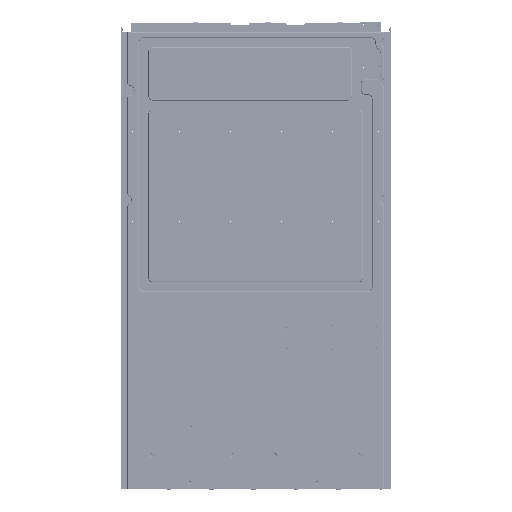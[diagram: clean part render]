
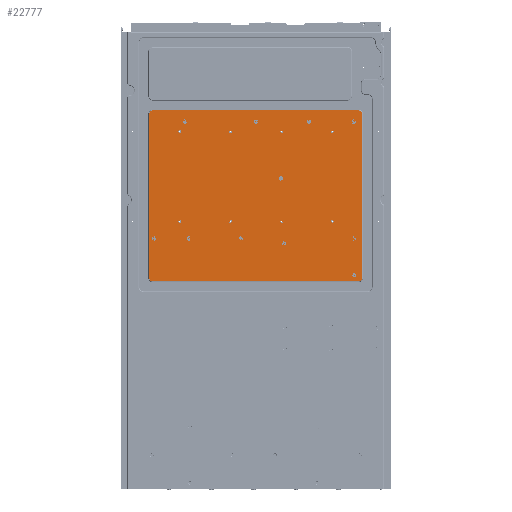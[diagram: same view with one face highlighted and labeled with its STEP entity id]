
A CAD part, front view. The second image highlights one B-rep face of the part: STEP entity #22777.
In plain terms, the highlighted planar face has unit normal (0, -1, 0).
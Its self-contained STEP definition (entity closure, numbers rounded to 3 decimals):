
#78=DIRECTION('',(0.,0.,-1.));
#79=VECTOR('',#78,266.);
#80=CARTESIAN_POINT('',(-173.5,0.,-150.7));
#81=LINE('',#80,#79);
#85=CARTESIAN_POINT('',(-167.7,0.,-150.7));
#86=DIRECTION('',(0.,1.,0.));
#87=DIRECTION('',(-1.,0.,0.));
#88=AXIS2_PLACEMENT_3D('',#85,#86,#87);
#93=DIRECTION('',(-1.,0.,0.));
#94=VECTOR('',#93,334.39);
#95=CARTESIAN_POINT('',(166.69,0.,-144.9));
#96=LINE('',#95,#94);
#100=CARTESIAN_POINT('',(166.69,0.,-150.7));
#101=DIRECTION('',(0.,1.,0.));
#102=DIRECTION('',(0.,0.,1.));
#103=AXIS2_PLACEMENT_3D('',#100,#101,#102);
#108=DIRECTION('',(0.,0.,1.));
#109=VECTOR('',#108,266.);
#110=CARTESIAN_POINT('',(172.49,0.,-416.7));
#111=LINE('',#110,#109);
#115=CARTESIAN_POINT('',(166.69,0.,-416.7));
#116=DIRECTION('',(0.,1.,0.));
#117=DIRECTION('',(1.,0.,0.));
#118=AXIS2_PLACEMENT_3D('',#115,#116,#117);
#123=DIRECTION('',(1.,0.,0.));
#124=VECTOR('',#123,334.39);
#125=CARTESIAN_POINT('',(-167.7,0.,-422.5));
#126=LINE('',#125,#124);
#130=CARTESIAN_POINT('',(-167.7,0.,-416.7));
#131=DIRECTION('',(0.,1.,0.));
#132=DIRECTION('',(0.,0.,-1.));
#133=AXIS2_PLACEMENT_3D('',#130,#131,#132);
#138=CARTESIAN_POINT('',(123.6,0.,-179.5));
#139=DIRECTION('',(0.,1.,0.));
#140=DIRECTION('',(-1.,0.,0.));
#141=AXIS2_PLACEMENT_3D('',#138,#139,#140);
#146=CARTESIAN_POINT('',(123.6,0.,-179.5));
#147=DIRECTION('',(0.,1.,0.));
#148=DIRECTION('',(1.,0.,0.));
#149=AXIS2_PLACEMENT_3D('',#146,#147,#148);
#154=CARTESIAN_POINT('',(41.2,0.,-179.5));
#155=DIRECTION('',(0.,1.,0.));
#156=DIRECTION('',(-1.,0.,0.));
#157=AXIS2_PLACEMENT_3D('',#154,#155,#156);
#162=CARTESIAN_POINT('',(41.2,0.,-179.5));
#163=DIRECTION('',(0.,1.,0.));
#164=DIRECTION('',(1.,0.,0.));
#165=AXIS2_PLACEMENT_3D('',#162,#163,#164);
#170=CARTESIAN_POINT('',(-41.2,0.,-179.5));
#171=DIRECTION('',(0.,1.,0.));
#172=DIRECTION('',(-1.,0.,0.));
#173=AXIS2_PLACEMENT_3D('',#170,#171,#172);
#178=CARTESIAN_POINT('',(-41.2,0.,-179.5));
#179=DIRECTION('',(0.,1.,0.));
#180=DIRECTION('',(1.,0.,0.));
#181=AXIS2_PLACEMENT_3D('',#178,#179,#180);
#186=CARTESIAN_POINT('',(-123.6,0.,-179.5));
#187=DIRECTION('',(0.,1.,0.));
#188=DIRECTION('',(-1.,0.,0.));
#189=AXIS2_PLACEMENT_3D('',#186,#187,#188);
#194=CARTESIAN_POINT('',(-123.6,0.,-179.5));
#195=DIRECTION('',(0.,1.,0.));
#196=DIRECTION('',(1.,0.,0.));
#197=AXIS2_PLACEMENT_3D('',#194,#195,#196);
#202=CARTESIAN_POINT('',(-123.6,0.,-325.5));
#203=DIRECTION('',(0.,1.,0.));
#204=DIRECTION('',(-1.,0.,0.));
#205=AXIS2_PLACEMENT_3D('',#202,#203,#204);
#210=CARTESIAN_POINT('',(-123.6,0.,-325.5));
#211=DIRECTION('',(0.,1.,0.));
#212=DIRECTION('',(1.,0.,0.));
#213=AXIS2_PLACEMENT_3D('',#210,#211,#212);
#218=CARTESIAN_POINT('',(-41.2,0.,-325.5));
#219=DIRECTION('',(0.,1.,0.));
#220=DIRECTION('',(-1.,0.,0.));
#221=AXIS2_PLACEMENT_3D('',#218,#219,#220);
#226=CARTESIAN_POINT('',(-41.2,0.,-325.5));
#227=DIRECTION('',(0.,1.,0.));
#228=DIRECTION('',(1.,0.,0.));
#229=AXIS2_PLACEMENT_3D('',#226,#227,#228);
#234=CARTESIAN_POINT('',(41.2,0.,-325.5));
#235=DIRECTION('',(0.,1.,0.));
#236=DIRECTION('',(-1.,0.,0.));
#237=AXIS2_PLACEMENT_3D('',#234,#235,#236);
#242=CARTESIAN_POINT('',(41.2,0.,-325.5));
#243=DIRECTION('',(0.,1.,0.));
#244=DIRECTION('',(1.,0.,0.));
#245=AXIS2_PLACEMENT_3D('',#242,#243,#244);
#250=CARTESIAN_POINT('',(123.6,0.,-325.5));
#251=DIRECTION('',(0.,1.,0.));
#252=DIRECTION('',(-1.,0.,0.));
#253=AXIS2_PLACEMENT_3D('',#250,#251,#252);
#258=CARTESIAN_POINT('',(123.6,0.,-325.5));
#259=DIRECTION('',(0.,1.,0.));
#260=DIRECTION('',(1.,0.,0.));
#261=AXIS2_PLACEMENT_3D('',#258,#259,#260);
#19987=CARTESIAN_POINT('',(-173.5,0.,-150.7));
#19988=CARTESIAN_POINT('',(-173.5,0.,-416.7));
#19989=VERTEX_POINT('',#19987);
#19990=VERTEX_POINT('',#19988);
#19991=CARTESIAN_POINT('',(-167.7,0.,-144.9));
#19992=VERTEX_POINT('',#19991);
#19993=CARTESIAN_POINT('',(166.69,0.,-144.9));
#19994=VERTEX_POINT('',#19993);
#19995=CARTESIAN_POINT('',(172.49,0.,-150.7));
#19996=VERTEX_POINT('',#19995);
#19997=CARTESIAN_POINT('',(172.49,0.,-416.7));
#19998=VERTEX_POINT('',#19997);
#19999=CARTESIAN_POINT('',(166.69,0.,-422.5));
#20000=VERTEX_POINT('',#19999);
#20001=CARTESIAN_POINT('',(-167.7,0.,-422.5));
#20002=VERTEX_POINT('',#20001);
#21737=CARTESIAN_POINT('',(122.1,0.,-179.5));
#21738=CARTESIAN_POINT('',(125.1,0.,-179.5));
#21739=VERTEX_POINT('',#21737);
#21740=VERTEX_POINT('',#21738);
#21741=CARTESIAN_POINT('',(39.7,0.,-179.5));
#21742=CARTESIAN_POINT('',(42.7,0.,-179.5));
#21743=VERTEX_POINT('',#21741);
#21744=VERTEX_POINT('',#21742);
#21745=CARTESIAN_POINT('',(-42.7,0.,-179.5));
#21746=CARTESIAN_POINT('',(-39.7,0.,-179.5));
#21747=VERTEX_POINT('',#21745);
#21748=VERTEX_POINT('',#21746);
#21749=CARTESIAN_POINT('',(-125.1,0.,-179.5));
#21750=CARTESIAN_POINT('',(-122.1,0.,-179.5));
#21751=VERTEX_POINT('',#21749);
#21752=VERTEX_POINT('',#21750);
#21761=CARTESIAN_POINT('',(-125.1,0.,-325.5));
#21762=CARTESIAN_POINT('',(-122.1,0.,-325.5));
#21763=VERTEX_POINT('',#21761);
#21764=VERTEX_POINT('',#21762);
#21765=CARTESIAN_POINT('',(-42.7,0.,-325.5));
#21766=CARTESIAN_POINT('',(-39.7,0.,-325.5));
#21767=VERTEX_POINT('',#21765);
#21768=VERTEX_POINT('',#21766);
#21769=CARTESIAN_POINT('',(39.7,0.,-325.5));
#21770=CARTESIAN_POINT('',(42.7,0.,-325.5));
#21771=VERTEX_POINT('',#21769);
#21772=VERTEX_POINT('',#21770);
#21773=CARTESIAN_POINT('',(122.1,0.,-325.5));
#21774=CARTESIAN_POINT('',(125.1,0.,-325.5));
#21775=VERTEX_POINT('',#21773);
#21776=VERTEX_POINT('',#21774);
#22706=CARTESIAN_POINT('',(0.,0.,0.));
#22707=DIRECTION('',(0.,1.,0.));
#22708=DIRECTION('',(1.,0.,0.));
#22709=AXIS2_PLACEMENT_3D('',#22706,#22707,#22708);
#22710=PLANE('',#22709);
#22712=ORIENTED_EDGE('',*,*,#22711,.F.);
#22714=ORIENTED_EDGE('',*,*,#22713,.T.);
#22716=ORIENTED_EDGE('',*,*,#22715,.F.);
#22718=ORIENTED_EDGE('',*,*,#22717,.T.);
#22720=ORIENTED_EDGE('',*,*,#22719,.F.);
#22722=ORIENTED_EDGE('',*,*,#22721,.T.);
#22724=ORIENTED_EDGE('',*,*,#22723,.F.);
#22726=ORIENTED_EDGE('',*,*,#22725,.T.);
#22727=EDGE_LOOP('',(#22712,#22714,#22716,#22718,#22720,#22722,#22724,#22726));
#22728=FACE_OUTER_BOUND('',#22727,.F.);
#22730=ORIENTED_EDGE('',*,*,#22729,.F.);
#22732=ORIENTED_EDGE('',*,*,#22731,.F.);
#22733=EDGE_LOOP('',(#22730,#22732));
#22734=FACE_BOUND('',#22733,.F.);
#22736=ORIENTED_EDGE('',*,*,#22735,.F.);
#22738=ORIENTED_EDGE('',*,*,#22737,.F.);
#22739=EDGE_LOOP('',(#22736,#22738));
#22740=FACE_BOUND('',#22739,.F.);
#22742=ORIENTED_EDGE('',*,*,#22741,.F.);
#22744=ORIENTED_EDGE('',*,*,#22743,.F.);
#22745=EDGE_LOOP('',(#22742,#22744));
#22746=FACE_BOUND('',#22745,.F.);
#22748=ORIENTED_EDGE('',*,*,#22747,.F.);
#22750=ORIENTED_EDGE('',*,*,#22749,.F.);
#22751=EDGE_LOOP('',(#22748,#22750));
#22752=FACE_BOUND('',#22751,.F.);
#22754=ORIENTED_EDGE('',*,*,#22753,.F.);
#22756=ORIENTED_EDGE('',*,*,#22755,.F.);
#22757=EDGE_LOOP('',(#22754,#22756));
#22758=FACE_BOUND('',#22757,.F.);
#22760=ORIENTED_EDGE('',*,*,#22759,.F.);
#22762=ORIENTED_EDGE('',*,*,#22761,.F.);
#22763=EDGE_LOOP('',(#22760,#22762));
#22764=FACE_BOUND('',#22763,.F.);
#22766=ORIENTED_EDGE('',*,*,#22765,.F.);
#22768=ORIENTED_EDGE('',*,*,#22767,.F.);
#22769=EDGE_LOOP('',(#22766,#22768));
#22770=FACE_BOUND('',#22769,.F.);
#22772=ORIENTED_EDGE('',*,*,#22771,.F.);
#22774=ORIENTED_EDGE('',*,*,#22773,.F.);
#22775=EDGE_LOOP('',(#22772,#22774));
#22776=FACE_BOUND('',#22775,.F.);
#89=CIRCLE('',#88,5.8);
#104=CIRCLE('',#103,5.8);
#119=CIRCLE('',#118,5.8);
#134=CIRCLE('',#133,5.8);
#142=CIRCLE('',#141,1.5);
#150=CIRCLE('',#149,1.5);
#158=CIRCLE('',#157,1.5);
#166=CIRCLE('',#165,1.5);
#174=CIRCLE('',#173,1.5);
#182=CIRCLE('',#181,1.5);
#190=CIRCLE('',#189,1.5);
#198=CIRCLE('',#197,1.5);
#206=CIRCLE('',#205,1.5);
#214=CIRCLE('',#213,1.5);
#222=CIRCLE('',#221,1.5);
#230=CIRCLE('',#229,1.5);
#238=CIRCLE('',#237,1.5);
#246=CIRCLE('',#245,1.5);
#254=CIRCLE('',#253,1.5);
#262=CIRCLE('',#261,1.5);
#22711=EDGE_CURVE('',#19989,#19990,#81,.T.);
#22713=EDGE_CURVE('',#19989,#19992,#89,.T.);
#22715=EDGE_CURVE('',#19994,#19992,#96,.T.);
#22717=EDGE_CURVE('',#19994,#19996,#104,.T.);
#22719=EDGE_CURVE('',#19998,#19996,#111,.T.);
#22721=EDGE_CURVE('',#19998,#20000,#119,.T.);
#22723=EDGE_CURVE('',#20002,#20000,#126,.T.);
#22725=EDGE_CURVE('',#20002,#19990,#134,.T.);
#22729=EDGE_CURVE('',#21739,#21740,#142,.T.);
#22731=EDGE_CURVE('',#21740,#21739,#150,.T.);
#22735=EDGE_CURVE('',#21743,#21744,#158,.T.);
#22737=EDGE_CURVE('',#21744,#21743,#166,.T.);
#22741=EDGE_CURVE('',#21747,#21748,#174,.T.);
#22743=EDGE_CURVE('',#21748,#21747,#182,.T.);
#22747=EDGE_CURVE('',#21751,#21752,#190,.T.);
#22749=EDGE_CURVE('',#21752,#21751,#198,.T.);
#22753=EDGE_CURVE('',#21763,#21764,#206,.T.);
#22755=EDGE_CURVE('',#21764,#21763,#214,.T.);
#22759=EDGE_CURVE('',#21767,#21768,#222,.T.);
#22761=EDGE_CURVE('',#21768,#21767,#230,.T.);
#22765=EDGE_CURVE('',#21771,#21772,#238,.T.);
#22767=EDGE_CURVE('',#21772,#21771,#246,.T.);
#22771=EDGE_CURVE('',#21775,#21776,#254,.T.);
#22773=EDGE_CURVE('',#21776,#21775,#262,.T.);
#22777=ADVANCED_FACE('',(#22728,#22734,#22740,#22746,#22752,#22758,#22764,
#22770,#22776),#22710,.F.);
